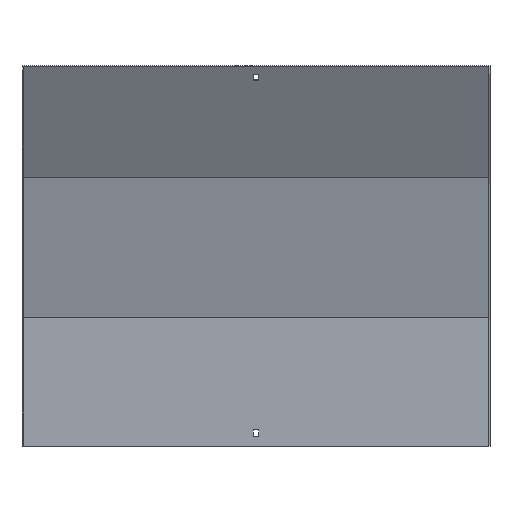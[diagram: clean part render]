
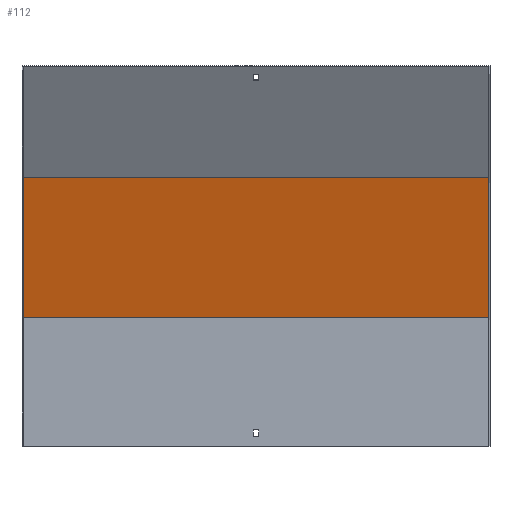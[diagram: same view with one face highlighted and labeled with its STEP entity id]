
A CAD part, front view. The second image highlights one B-rep face of the part: STEP entity #112.
In plain terms, the highlighted planar face has unit normal (0, -0.966, -0.259).
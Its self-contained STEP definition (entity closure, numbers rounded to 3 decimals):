
#10 = LINE ( 'NONE', #144, #154 ) ;
#20 = CARTESIAN_POINT ( 'NONE',  ( 300., 58.62, 15.707 ) ) ;
#31 = DIRECTION ( 'NONE',  ( 0., 0.259, -0.966 ) ) ;
#32 = LINE ( 'NONE', #179, #326 ) ;
#39 = LINE ( 'NONE', #824, #225 ) ;
#48 = ORIENTED_EDGE ( 'NONE', *, *, #582, .T. ) ;
#71 = ORIENTED_EDGE ( 'NONE', *, *, #416, .F. ) ;
#90 = CARTESIAN_POINT ( 'NONE',  ( 300., 18.5, 165.436 ) ) ;
#112 = ADVANCED_FACE ( 'NONE', ( #175 ), #618, .T. ) ;
#131 = CARTESIAN_POINT ( 'NONE',  ( 300., -29.866, 345.939 ) ) ;
#144 = CARTESIAN_POINT ( 'NONE',  ( -300., 58.62, 15.707 ) ) ;
#147 = DIRECTION ( 'NONE',  ( 0., -0.259, 0.966 ) ) ;
#154 = VECTOR ( 'NONE', #147, 1000. ) ;
#158 = VERTEX_POINT ( 'NONE', #90 ) ;
#175 = FACE_OUTER_BOUND ( 'NONE', #270, .T. ) ;
#179 = CARTESIAN_POINT ( 'NONE',  ( 301.5, -29.866, 345.939 ) ) ;
#225 = VECTOR ( 'NONE', #546, 1000. ) ;
#259 = ORIENTED_EDGE ( 'NONE', *, *, #421, .T. ) ;
#270 = EDGE_LOOP ( 'NONE', ( #71, #323, #259, #48 ) ) ;
#290 = CARTESIAN_POINT ( 'NONE',  ( -300., -29.866, 345.939 ) ) ;
#310 = CARTESIAN_POINT ( 'NONE',  ( -300., 18.5, 165.436 ) ) ;
#323 = ORIENTED_EDGE ( 'NONE', *, *, #840, .F. ) ;
#326 = VECTOR ( 'NONE', #571, 1000. ) ;
#352 = AXIS2_PLACEMENT_3D ( 'NONE', #821, #692, #31 ) ;
#405 = VECTOR ( 'NONE', #743, 1000. ) ;
#412 = LINE ( 'NONE', #20, #405 ) ;
#416 = EDGE_CURVE ( 'NONE', #849, #425, #10, .T. ) ;
#421 = EDGE_CURVE ( 'NONE', #158, #724, #412, .T. ) ;
#425 = VERTEX_POINT ( 'NONE', #290 ) ;
#546 = DIRECTION ( 'NONE',  ( -1., 0., 0. ) ) ;
#571 = DIRECTION ( 'NONE',  ( -1., 0., 0. ) ) ;
#582 = EDGE_CURVE ( 'NONE', #724, #425, #32, .T. ) ;
#618 = PLANE ( 'NONE',  #352 ) ;
#692 = DIRECTION ( 'NONE',  ( 0., -0.966, -0.259 ) ) ;
#724 = VERTEX_POINT ( 'NONE', #131 ) ;
#743 = DIRECTION ( 'NONE',  ( 0., -0.259, 0.966 ) ) ;
#821 = CARTESIAN_POINT ( 'NONE',  ( 301.5, 17.87, 167.788 ) ) ;
#824 = CARTESIAN_POINT ( 'NONE',  ( 301.5, 18.5, 165.436 ) ) ;
#840 = EDGE_CURVE ( 'NONE', #158, #849, #39, .T. ) ;
#849 = VERTEX_POINT ( 'NONE', #310 ) ;
